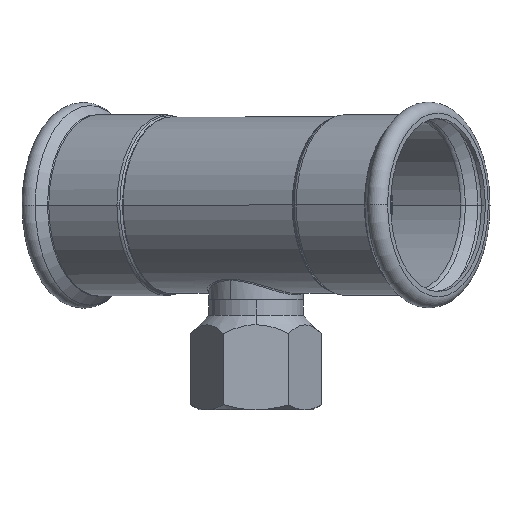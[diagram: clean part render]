
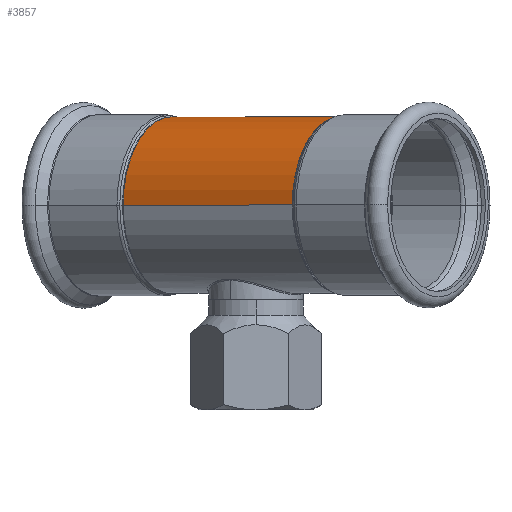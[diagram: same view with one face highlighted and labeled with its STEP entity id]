
A CAD part, top view. The second image highlights one B-rep face of the part: STEP entity #3857.
In plain terms, the highlighted cylindrical face has radius 28 mm (diameter 56 mm), a partial arc.
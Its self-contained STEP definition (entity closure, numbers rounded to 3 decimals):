
#4 = CARTESIAN_POINT ( 'NONE',  ( -32.06, 0., 0. ) ) ;
#30 = CARTESIAN_POINT ( 'NONE',  ( -32.06, 0., -28. ) ) ;
#545 = EDGE_CURVE ( 'NONE', #823, #2188, #798, .T. ) ;
#621 = DIRECTION ( 'NONE',  ( 0., 0., 1. ) ) ;
#798 = CIRCLE ( 'NONE', #1906, 28. ) ;
#823 = VERTEX_POINT ( 'NONE', #30 ) ;
#884 = EDGE_CURVE ( 'NONE', #3207, #2101, #3721, .T. ) ;
#964 = DIRECTION ( 'NONE',  ( -1., 0., 0. ) ) ;
#1099 = FACE_OUTER_BOUND ( 'NONE', #2465, .T. ) ;
#1180 = ORIENTED_EDGE ( 'NONE', *, *, #545, .F. ) ;
#1254 = ORIENTED_EDGE ( 'NONE', *, *, #3623, .F. ) ;
#1311 = CYLINDRICAL_SURFACE ( 'NONE', #2838, 28. ) ;
#1400 = DIRECTION ( 'NONE',  ( 0., 0., 1. ) ) ;
#1413 = ORIENTED_EDGE ( 'NONE', *, *, #3353, .T. ) ;
#1661 = VECTOR ( 'NONE', #3827, 1000. ) ;
#1906 = AXIS2_PLACEMENT_3D ( 'NONE', #4, #2327, #3261 ) ;
#2101 = VERTEX_POINT ( 'NONE', #3995 ) ;
#2130 = CARTESIAN_POINT ( 'NONE',  ( -32.06, 0., 28. ) ) ;
#2188 = VERTEX_POINT ( 'NONE', #2130 ) ;
#2323 = LINE ( 'NONE', #3802, #3694 ) ;
#2327 = DIRECTION ( 'NONE',  ( -1., 0., 0. ) ) ;
#2405 = DIRECTION ( 'NONE',  ( -1., 0., 0. ) ) ;
#2465 = EDGE_LOOP ( 'NONE', ( #1254, #3384, #1413, #1180 ) ) ;
#2521 = CARTESIAN_POINT ( 'NONE',  ( 27.146, 0., -28. ) ) ;
#2741 = CARTESIAN_POINT ( 'NONE',  ( 32.06, 0., 0. ) ) ;
#2838 = AXIS2_PLACEMENT_3D ( 'NONE', #3860, #964, #621 ) ;
#2998 = LINE ( 'NONE', #2521, #1661 ) ;
#3207 = VERTEX_POINT ( 'NONE', #3378 ) ;
#3261 = DIRECTION ( 'NONE',  ( 0., 0., 1. ) ) ;
#3353 = EDGE_CURVE ( 'NONE', #2101, #2188, #2323, .T. ) ;
#3378 = CARTESIAN_POINT ( 'NONE',  ( 32.06, 0., -28. ) ) ;
#3384 = ORIENTED_EDGE ( 'NONE', *, *, #884, .T. ) ;
#3623 = EDGE_CURVE ( 'NONE', #3207, #823, #2998, .T. ) ;
#3694 = VECTOR ( 'NONE', #4093, 1000. ) ;
#3721 = CIRCLE ( 'NONE', #3735, 28. ) ;
#3735 = AXIS2_PLACEMENT_3D ( 'NONE', #2741, #2405, #1400 ) ;
#3802 = CARTESIAN_POINT ( 'NONE',  ( 27.146, 0., 28. ) ) ;
#3827 = DIRECTION ( 'NONE',  ( -1., 0., 0. ) ) ;
#3857 = ADVANCED_FACE ( 'NONE', ( #1099 ), #1311, .T. ) ;
#3860 = CARTESIAN_POINT ( 'NONE',  ( 27.146, 0., 0. ) ) ;
#3995 = CARTESIAN_POINT ( 'NONE',  ( 32.06, 0., 28. ) ) ;
#4093 = DIRECTION ( 'NONE',  ( -1., 0., 0. ) ) ;
